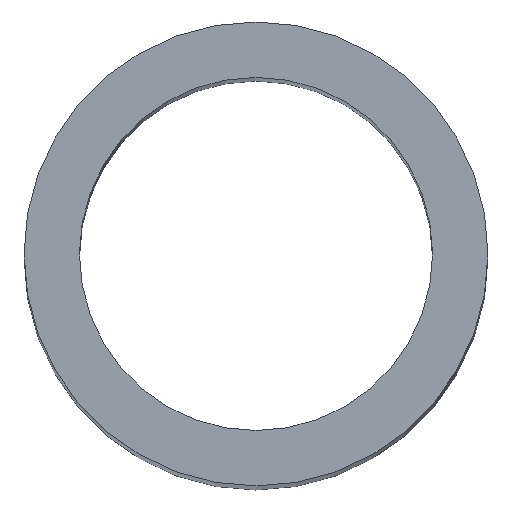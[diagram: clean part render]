
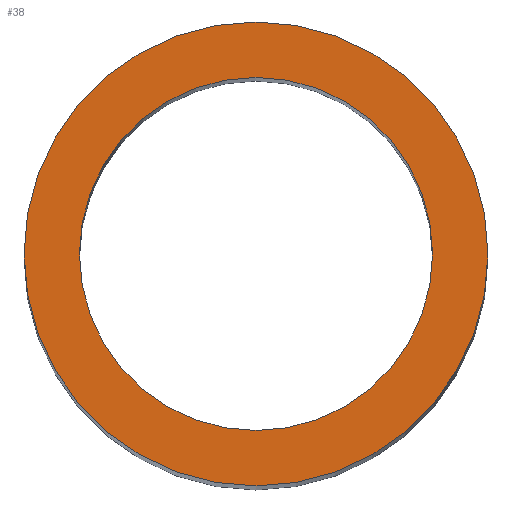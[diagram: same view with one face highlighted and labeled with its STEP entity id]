
A CAD part, top view. The second image highlights one B-rep face of the part: STEP entity #38.
In plain terms, the highlighted planar face has unit normal (0, 0, 1).
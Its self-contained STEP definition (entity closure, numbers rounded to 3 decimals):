
#4 = EDGE_LOOP ( 'NONE', ( #42, #37 ) ) ;
#8 = EDGE_CURVE ( 'NONE', #171, #113, #111, .T. ) ;
#9 = EDGE_LOOP ( 'NONE', ( #13, #14 ) ) ;
#13 = ORIENTED_EDGE ( 'NONE', *, *, #186, .T. ) ;
#14 = ORIENTED_EDGE ( 'NONE', *, *, #8, .T. ) ;
#23 = EDGE_CURVE ( 'NONE', #180, #109, #148, .T. ) ;
#37 = ORIENTED_EDGE ( 'NONE', *, *, #125, .T. ) ;
#38 = ADVANCED_FACE ( 'NONE', ( #139, #123 ), #122, .F. ) ;
#42 = ORIENTED_EDGE ( 'NONE', *, *, #23, .T. ) ;
#109 = VERTEX_POINT ( 'NONE', #319 ) ;
#111 = CIRCLE ( 'NONE', #176, 19.9 ) ;
#113 = VERTEX_POINT ( 'NONE', #316 ) ;
#117 = DIRECTION ( 'NONE',  ( -1., 0., 0. ) ) ;
#118 = DIRECTION ( 'NONE',  ( 0., 0., -1. ) ) ;
#119 = CARTESIAN_POINT ( 'NONE',  ( 0., 19.9, 0. ) ) ;
#120 = AXIS2_PLACEMENT_3D ( 'NONE', #119, #118, #117 ) ;
#122 = PLANE ( 'NONE',  #120 ) ;
#123 = FACE_OUTER_BOUND ( 'NONE', #9, .T. ) ;
#125 = EDGE_CURVE ( 'NONE', #109, #180, #311, .T. ) ;
#139 = FACE_BOUND ( 'NONE', #4, .T. ) ;
#144 = DIRECTION ( 'NONE',  ( 0., 1., 0. ) ) ;
#145 = DIRECTION ( 'NONE',  ( 0., 0., -1. ) ) ;
#146 = CARTESIAN_POINT ( 'NONE',  ( 0., 0., 0. ) ) ;
#147 = AXIS2_PLACEMENT_3D ( 'NONE', #146, #145, #144 ) ;
#148 = CIRCLE ( 'NONE', #147, 15.145 ) ;
#171 = VERTEX_POINT ( 'NONE', #354 ) ;
#173 = DIRECTION ( 'NONE',  ( 1., 0., 0. ) ) ;
#174 = DIRECTION ( 'NONE',  ( 0., 0., 1. ) ) ;
#175 = CARTESIAN_POINT ( 'NONE',  ( 0., 0., 0. ) ) ;
#176 = AXIS2_PLACEMENT_3D ( 'NONE', #175, #174, #173 ) ;
#180 = VERTEX_POINT ( 'NONE', #345 ) ;
#186 = EDGE_CURVE ( 'NONE', #113, #171, #340, .T. ) ;
#307 = DIRECTION ( 'NONE',  ( 0., 1., 0. ) ) ;
#308 = DIRECTION ( 'NONE',  ( 0., 0., -1. ) ) ;
#309 = CARTESIAN_POINT ( 'NONE',  ( 0., 0., 0. ) ) ;
#310 = AXIS2_PLACEMENT_3D ( 'NONE', #309, #308, #307 ) ;
#311 = CIRCLE ( 'NONE', #310, 15.145 ) ;
#316 = CARTESIAN_POINT ( 'NONE',  ( 19.9, 0., 0. ) ) ;
#319 = CARTESIAN_POINT ( 'NONE',  ( 0., -15.145, 0. ) ) ;
#336 = DIRECTION ( 'NONE',  ( 1., 0., 0. ) ) ;
#337 = DIRECTION ( 'NONE',  ( 0., 0., 1. ) ) ;
#338 = CARTESIAN_POINT ( 'NONE',  ( 0., 0., 0. ) ) ;
#339 = AXIS2_PLACEMENT_3D ( 'NONE', #338, #337, #336 ) ;
#340 = CIRCLE ( 'NONE', #339, 19.9 ) ;
#345 = CARTESIAN_POINT ( 'NONE',  ( 0., 15.145, 0. ) ) ;
#354 = CARTESIAN_POINT ( 'NONE',  ( -19.9, 0., 0. ) ) ;
